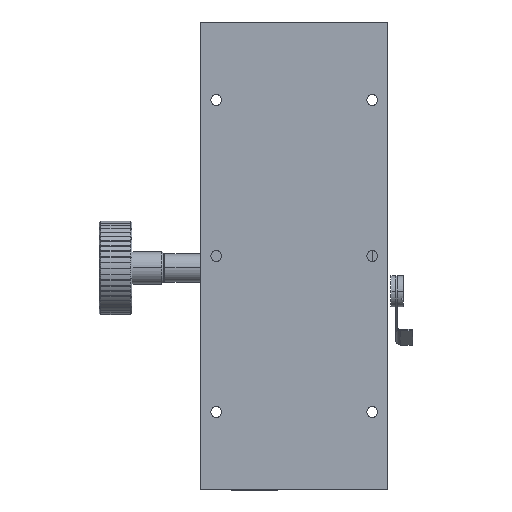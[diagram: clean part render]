
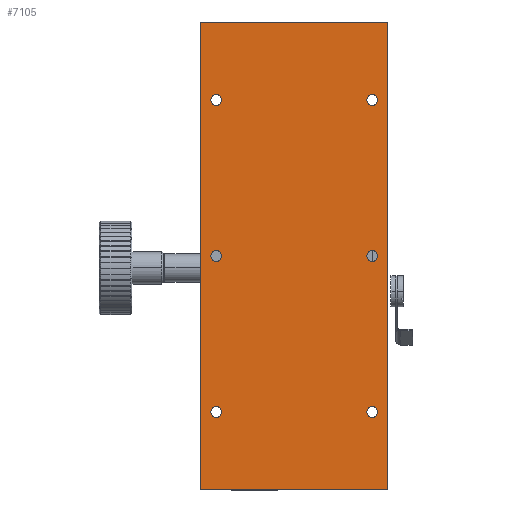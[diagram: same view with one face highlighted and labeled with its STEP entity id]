
A CAD part, front view. The second image highlights one B-rep face of the part: STEP entity #7105.
In plain terms, the highlighted planar face has unit normal (0, 1, 0).
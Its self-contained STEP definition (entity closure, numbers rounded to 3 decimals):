
#100 = EDGE_CURVE ( 'NONE', #4964, #4418, #5983, .T. ) ;
#107 = AXIS2_PLACEMENT_3D ( 'NONE', #325, #6445, #1236 ) ;
#264 = DIRECTION ( 'NONE',  ( -1., 0., 0. ) ) ;
#325 = CARTESIAN_POINT ( 'NONE',  ( -23.806, -2.622, 100. ) ) ;
#393 = AXIS2_PLACEMENT_3D ( 'NONE', #3752, #3824, #9921 ) ;
#503 = VECTOR ( 'NONE', #5066, 1000. ) ;
#613 = VERTEX_POINT ( 'NONE', #7783 ) ;
#624 = CARTESIAN_POINT ( 'NONE',  ( -28.806, -2.622, 225. ) ) ;
#730 = AXIS2_PLACEMENT_3D ( 'NONE', #5265, #5199, #2623 ) ;
#750 = FACE_BOUND ( 'NONE', #4488, .T. ) ;
#754 = AXIS2_PLACEMENT_3D ( 'NONE', #9230, #6551, #4813 ) ;
#777 = CIRCLE ( 'NONE', #393, 1.75 ) ;
#1029 = CARTESIAN_POINT ( 'NONE',  ( 26.194, -2.622, 198.25 ) ) ;
#1127 = VERTEX_POINT ( 'NONE', #3572 ) ;
#1179 = DIRECTION ( 'NONE',  ( 0., 0., 1. ) ) ;
#1196 = VERTEX_POINT ( 'NONE', #10368 ) ;
#1203 = FACE_BOUND ( 'NONE', #4620, .T. ) ;
#1209 = LINE ( 'NONE', #624, #503 ) ;
#1236 = DIRECTION ( 'NONE',  ( 0., 0., 1. ) ) ;
#1339 = FACE_BOUND ( 'NONE', #9340, .T. ) ;
#1378 = CIRCLE ( 'NONE', #8303, 1.75 ) ;
#1379 = ORIENTED_EDGE ( 'NONE', *, *, #2714, .T. ) ;
#1384 = AXIS2_PLACEMENT_3D ( 'NONE', #3067, #3947, #7424 ) ;
#1471 = ORIENTED_EDGE ( 'NONE', *, *, #4918, .T. ) ;
#1484 = CIRCLE ( 'NONE', #10763, 1.75 ) ;
#1501 = VERTEX_POINT ( 'NONE', #2769 ) ;
#2115 = DIRECTION ( 'NONE',  ( 0., -1., 0. ) ) ;
#2184 = EDGE_CURVE ( 'NONE', #5441, #4287, #9753, .T. ) ;
#2273 = EDGE_CURVE ( 'NONE', #613, #2737, #1378, .T. ) ;
#2335 = CARTESIAN_POINT ( 'NONE',  ( -28.806, -2.622, 225. ) ) ;
#2425 = VERTEX_POINT ( 'NONE', #6007 ) ;
#2496 = CIRCLE ( 'NONE', #10751, 1.75 ) ;
#2508 = VECTOR ( 'NONE', #264, 1000. ) ;
#2623 = DIRECTION ( 'NONE',  ( 0., 0., 1. ) ) ;
#2632 = EDGE_LOOP ( 'NONE', ( #5303, #6883 ) ) ;
#2681 = CIRCLE ( 'NONE', #4042, 1.75 ) ;
#2714 = EDGE_CURVE ( 'NONE', #2425, #1501, #777, .T. ) ;
#2737 = VERTEX_POINT ( 'NONE', #1029 ) ;
#2764 = CARTESIAN_POINT ( 'NONE',  ( -28.806, -2.622, 75. ) ) ;
#2769 = CARTESIAN_POINT ( 'NONE',  ( -23.806, -2.622, 148.25 ) ) ;
#2778 = CIRCLE ( 'NONE', #9339, 1.75 ) ;
#2784 = DIRECTION ( 'NONE',  ( 0., -1., 0. ) ) ;
#2983 = ORIENTED_EDGE ( 'NONE', *, *, #100, .T. ) ;
#3013 = ORIENTED_EDGE ( 'NONE', *, *, #9918, .T. ) ;
#3067 = CARTESIAN_POINT ( 'NONE',  ( 26.194, -2.622, 200. ) ) ;
#3169 = AXIS2_PLACEMENT_3D ( 'NONE', #7113, #2784, #8038 ) ;
#3184 = FACE_BOUND ( 'NONE', #2632, .T. ) ;
#3310 = ORIENTED_EDGE ( 'NONE', *, *, #4728, .T. ) ;
#3369 = DIRECTION ( 'NONE',  ( 0., -1., 0. ) ) ;
#3447 = ORIENTED_EDGE ( 'NONE', *, *, #2184, .T. ) ;
#3524 = CIRCLE ( 'NONE', #8594, 1.75 ) ;
#3544 = VECTOR ( 'NONE', #8133, 1000. ) ;
#3554 = EDGE_CURVE ( 'NONE', #2737, #613, #9551, .T. ) ;
#3572 = CARTESIAN_POINT ( 'NONE',  ( -23.806, -2.622, 201.75 ) ) ;
#3595 = CARTESIAN_POINT ( 'NONE',  ( 26.194, -2.622, 101.75 ) ) ;
#3752 = CARTESIAN_POINT ( 'NONE',  ( -23.806, -2.622, 150. ) ) ;
#3824 = DIRECTION ( 'NONE',  ( 0., -1., 0. ) ) ;
#3905 = VECTOR ( 'NONE', #8261, 1000. ) ;
#3947 = DIRECTION ( 'NONE',  ( 0., -1., 0. ) ) ;
#4042 = AXIS2_PLACEMENT_3D ( 'NONE', #8570, #3369, #8525 ) ;
#4100 = EDGE_CURVE ( 'NONE', #10599, #6229, #3524, .T. ) ;
#4107 = AXIS2_PLACEMENT_3D ( 'NONE', #2335, #8487, #6671 ) ;
#4162 = PLANE ( 'NONE',  #4107 ) ;
#4200 = EDGE_LOOP ( 'NONE', ( #2983, #9108, #3447, #3013 ) ) ;
#4287 = VERTEX_POINT ( 'NONE', #10934 ) ;
#4309 = EDGE_CURVE ( 'NONE', #9980, #9533, #7722, .T. ) ;
#4389 = DIRECTION ( 'NONE',  ( 0., 0., 1. ) ) ;
#4418 = VERTEX_POINT ( 'NONE', #7794 ) ;
#4488 = EDGE_LOOP ( 'NONE', ( #9660, #7091 ) ) ;
#4620 = EDGE_LOOP ( 'NONE', ( #1379, #1471 ) ) ;
#4697 = CARTESIAN_POINT ( 'NONE',  ( 26.194, -2.622, 151.75 ) ) ;
#4728 = EDGE_CURVE ( 'NONE', #8156, #1196, #2778, .T. ) ;
#4754 = CARTESIAN_POINT ( 'NONE',  ( -23.806, -2.622, 200. ) ) ;
#4771 = DIRECTION ( 'NONE',  ( 0., 0., 1. ) ) ;
#4813 = DIRECTION ( 'NONE',  ( 0., 0., 1. ) ) ;
#4878 = DIRECTION ( 'NONE',  ( 0., 0., 1. ) ) ;
#4918 = EDGE_CURVE ( 'NONE', #1501, #2425, #2496, .T. ) ;
#4964 = VERTEX_POINT ( 'NONE', #2764 ) ;
#5066 = DIRECTION ( 'NONE',  ( 1., 0., 0. ) ) ;
#5118 = LINE ( 'NONE', #8981, #2508 ) ;
#5199 = DIRECTION ( 'NONE',  ( 0., -1., 0. ) ) ;
#5265 = CARTESIAN_POINT ( 'NONE',  ( 26.194, -2.622, 150. ) ) ;
#5303 = ORIENTED_EDGE ( 'NONE', *, *, #9295, .T. ) ;
#5441 = VERTEX_POINT ( 'NONE', #6621 ) ;
#5511 = CARTESIAN_POINT ( 'NONE',  ( -23.806, -2.622, 150. ) ) ;
#5593 = DIRECTION ( 'NONE',  ( 0., -1., 0. ) ) ;
#5763 = FACE_BOUND ( 'NONE', #7755, .T. ) ;
#5834 = ORIENTED_EDGE ( 'NONE', *, *, #8536, .T. ) ;
#5904 = CIRCLE ( 'NONE', #107, 1.75 ) ;
#5983 = LINE ( 'NONE', #8090, #3544 ) ;
#6007 = CARTESIAN_POINT ( 'NONE',  ( -23.806, -2.622, 151.75 ) ) ;
#6229 = VERTEX_POINT ( 'NONE', #6689 ) ;
#6287 = FACE_BOUND ( 'NONE', #7231, .T. ) ;
#6314 = ORIENTED_EDGE ( 'NONE', *, *, #7032, .T. ) ;
#6328 = EDGE_CURVE ( 'NONE', #4418, #5441, #1209, .T. ) ;
#6396 = CARTESIAN_POINT ( 'NONE',  ( -23.806, -2.622, 100. ) ) ;
#6445 = DIRECTION ( 'NONE',  ( 0., -1., 0. ) ) ;
#6551 = DIRECTION ( 'NONE',  ( 0., -1., 0. ) ) ;
#6621 = CARTESIAN_POINT ( 'NONE',  ( 31.194, -2.622, 225. ) ) ;
#6671 = DIRECTION ( 'NONE',  ( -1., 0., 0. ) ) ;
#6689 = CARTESIAN_POINT ( 'NONE',  ( -23.806, -2.622, 101.75 ) ) ;
#6743 = EDGE_CURVE ( 'NONE', #1127, #9490, #1484, .T. ) ;
#6883 = ORIENTED_EDGE ( 'NONE', *, *, #4309, .T. ) ;
#7032 = EDGE_CURVE ( 'NONE', #6229, #10599, #5904, .T. ) ;
#7082 = CARTESIAN_POINT ( 'NONE',  ( -23.806, -2.622, 98.25 ) ) ;
#7091 = ORIENTED_EDGE ( 'NONE', *, *, #3554, .T. ) ;
#7105 = ADVANCED_FACE ( 'NONE', ( #1339, #5763, #6287, #3184, #1203, #750, #9846 ), #4162, .T. ) ;
#7113 = CARTESIAN_POINT ( 'NONE',  ( 26.194, -2.622, 100. ) ) ;
#7231 = EDGE_LOOP ( 'NONE', ( #10997, #5834 ) ) ;
#7424 = DIRECTION ( 'NONE',  ( 0., 0., 1. ) ) ;
#7523 = CARTESIAN_POINT ( 'NONE',  ( 26.194, -2.622, 200. ) ) ;
#7722 = CIRCLE ( 'NONE', #754, 1.75 ) ;
#7755 = EDGE_LOOP ( 'NONE', ( #6314, #8289 ) ) ;
#7783 = CARTESIAN_POINT ( 'NONE',  ( 26.194, -2.622, 201.75 ) ) ;
#7794 = CARTESIAN_POINT ( 'NONE',  ( -28.806, -2.622, 225. ) ) ;
#8038 = DIRECTION ( 'NONE',  ( 0., 0., 1. ) ) ;
#8090 = CARTESIAN_POINT ( 'NONE',  ( -28.806, -2.622, 225. ) ) ;
#8133 = DIRECTION ( 'NONE',  ( 0., 0., 1. ) ) ;
#8156 = VERTEX_POINT ( 'NONE', #3595 ) ;
#8261 = DIRECTION ( 'NONE',  ( 0., 0., -1. ) ) ;
#8289 = ORIENTED_EDGE ( 'NONE', *, *, #4100, .T. ) ;
#8300 = DIRECTION ( 'NONE',  ( 0., -1., 0. ) ) ;
#8303 = AXIS2_PLACEMENT_3D ( 'NONE', #7523, #8300, #4878 ) ;
#8487 = DIRECTION ( 'NONE',  ( 0., 1., 0. ) ) ;
#8525 = DIRECTION ( 'NONE',  ( 0., 0., 1. ) ) ;
#8536 = EDGE_CURVE ( 'NONE', #9490, #1127, #2681, .T. ) ;
#8570 = CARTESIAN_POINT ( 'NONE',  ( -23.806, -2.622, 200. ) ) ;
#8594 = AXIS2_PLACEMENT_3D ( 'NONE', #6396, #10844, #4771 ) ;
#8939 = ORIENTED_EDGE ( 'NONE', *, *, #9435, .T. ) ;
#8981 = CARTESIAN_POINT ( 'NONE',  ( -28.806, -2.622, 75. ) ) ;
#9079 = CIRCLE ( 'NONE', #3169, 1.75 ) ;
#9108 = ORIENTED_EDGE ( 'NONE', *, *, #6328, .T. ) ;
#9230 = CARTESIAN_POINT ( 'NONE',  ( 26.194, -2.622, 150. ) ) ;
#9295 = EDGE_CURVE ( 'NONE', #9533, #9980, #9367, .T. ) ;
#9339 = AXIS2_PLACEMENT_3D ( 'NONE', #9679, #9609, #4389 ) ;
#9340 = EDGE_LOOP ( 'NONE', ( #3310, #8939 ) ) ;
#9367 = CIRCLE ( 'NONE', #730, 1.75 ) ;
#9435 = EDGE_CURVE ( 'NONE', #1196, #8156, #9079, .T. ) ;
#9490 = VERTEX_POINT ( 'NONE', #10660 ) ;
#9533 = VERTEX_POINT ( 'NONE', #4697 ) ;
#9551 = CIRCLE ( 'NONE', #1384, 1.75 ) ;
#9609 = DIRECTION ( 'NONE',  ( 0., -1., 0. ) ) ;
#9660 = ORIENTED_EDGE ( 'NONE', *, *, #2273, .T. ) ;
#9679 = CARTESIAN_POINT ( 'NONE',  ( 26.194, -2.622, 100. ) ) ;
#9753 = LINE ( 'NONE', #9952, #3905 ) ;
#9846 = FACE_OUTER_BOUND ( 'NONE', #4200, .T. ) ;
#9918 = EDGE_CURVE ( 'NONE', #4287, #4964, #5118, .T. ) ;
#9921 = DIRECTION ( 'NONE',  ( 0., 0., 1. ) ) ;
#9935 = DIRECTION ( 'NONE',  ( 0., 0., 1. ) ) ;
#9952 = CARTESIAN_POINT ( 'NONE',  ( 31.194, -2.622, 225. ) ) ;
#9980 = VERTEX_POINT ( 'NONE', #10494 ) ;
#10368 = CARTESIAN_POINT ( 'NONE',  ( 26.194, -2.622, 98.25 ) ) ;
#10494 = CARTESIAN_POINT ( 'NONE',  ( 26.194, -2.622, 148.25 ) ) ;
#10599 = VERTEX_POINT ( 'NONE', #7082 ) ;
#10660 = CARTESIAN_POINT ( 'NONE',  ( -23.806, -2.622, 198.25 ) ) ;
#10751 = AXIS2_PLACEMENT_3D ( 'NONE', #5511, #5593, #1179 ) ;
#10763 = AXIS2_PLACEMENT_3D ( 'NONE', #4754, #2115, #9935 ) ;
#10844 = DIRECTION ( 'NONE',  ( 0., -1., 0. ) ) ;
#10934 = CARTESIAN_POINT ( 'NONE',  ( 31.194, -2.622, 75. ) ) ;
#10997 = ORIENTED_EDGE ( 'NONE', *, *, #6743, .T. ) ;
